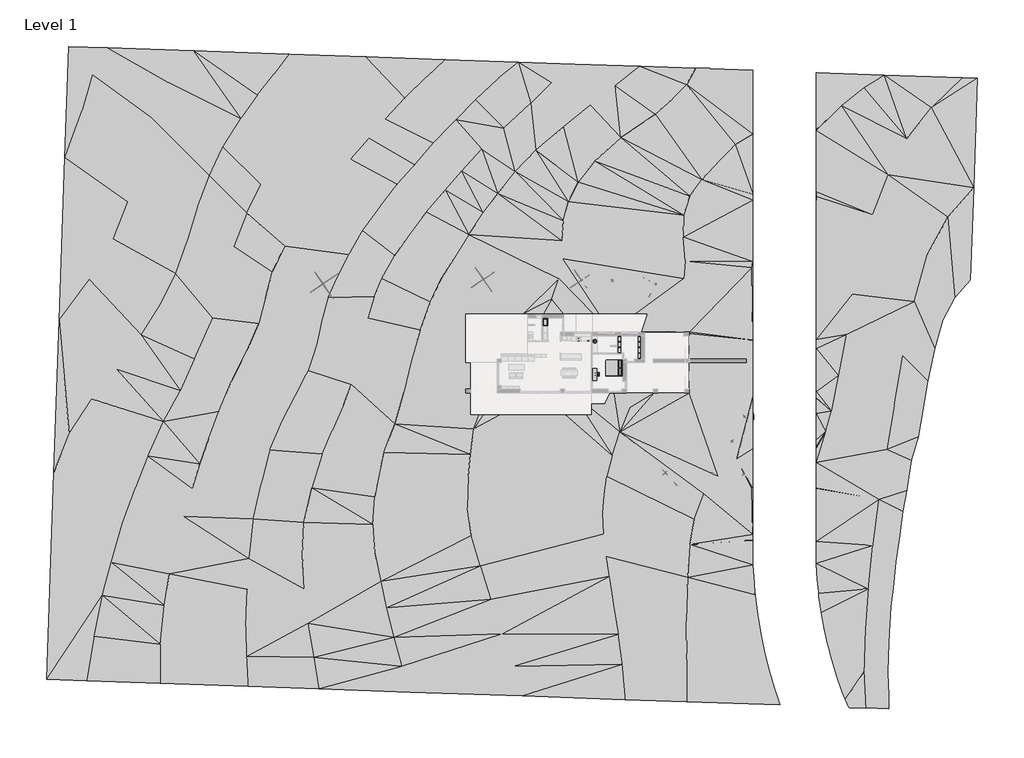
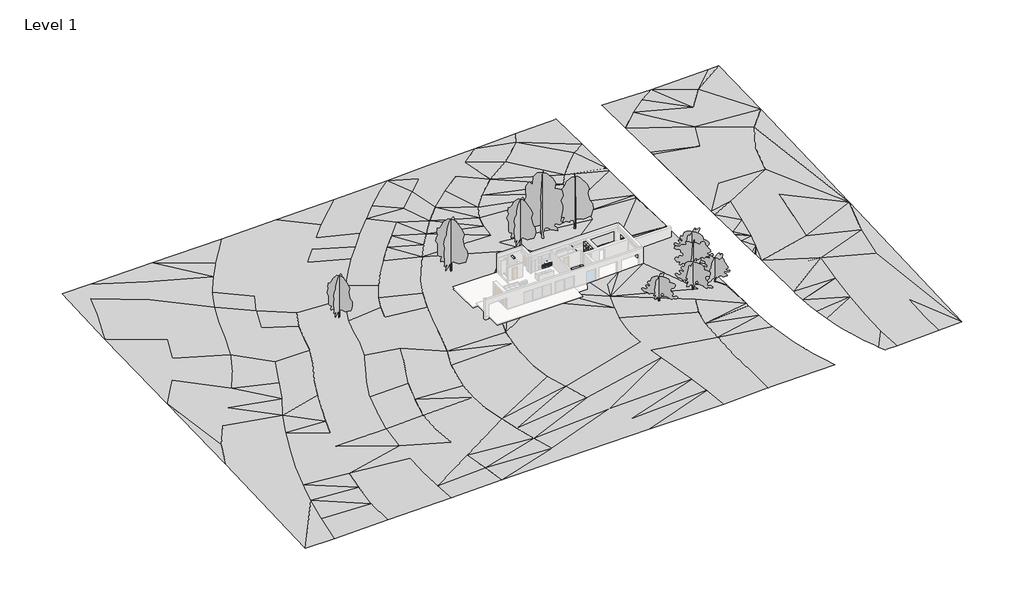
# One storey, part 3 of 3: 14 furniture elements, 10 geographic elements, 1 flow terminal, 1 proxy.
"""IFC4 building model written with IfcOpenShell, lengths in millimetres."""

from ifc_helpers import new_model, si_unit, origin, place, context, project, spatial, triangles, transform, mapped, element, save
from components import sink_vanity_round_482_x_482mm_621b7b9b, furniture_56f83323, furniture_1500_x_500mm_231fc5f9, furniture_700_x_300_x_2200mm_207dd1db, base_cabinet_4_drawers_600_mm_7743cde6, base_cabinet_4_drawers_600_mm_75a3c887, bed_box_2000_x_2100mm_5f007bae, tall_cabinet_double_door_900_mm_12ca9f50, rpc_tree_deciduous_hawthorn_5_meters_61e68b76, rpc_tree_deciduous_hawthorn_5_5_meters_b1aece7a, rpc_tree_deciduous_hawthorn_6_meters_b5c31be1, rpc_tree_deciduous_red_ash_10_meters_1bd7eb3f, rpc_tree_deciduous_red_ash_12_5_meters_f1622f8d, rpc_tree_deciduous_red_ash_8_meters_67bd5bca, rpc_tree_deciduous_red_ash_9_meters_4b385689

model = new_model("IFC4")

# Units and contexts
model_context = context("Model", 3, world=origin())
ifc_project = project(units=[si_unit("LENGTHUNIT", "METRE", prefix="MILLI")], contexts=[model_context])

# Site, building, storey
site = spatial("IfcSite", under=ifc_project)
building = spatial("IfcBuilding", under=site)
storey = spatial("IfcBuildingStorey", under=building, Name="Level 1", Elevation=0.0)

# Proxy
placement = place(None, origin())
element("IfcBuildingElementProxy", 1, Name="Building Element Proxy", at=placement, inside=storey, context=model_context, shape_type="Tessellation", body=[
    triangles([(62675.4813354, 39834.7592285, 500.0000038), (52813.8925781, 40179.1335571, 0.0), (44199.9997559, 40479.9384521, -99.9114706), (44199.9997559, 40477.7757935, -99.8740728), (44199.9997559, 40470.1669556, -99.7612435), (44199.9997559, 33283.15448, 0.0), (44199.9997559, 33281.3429626, 0.0637354), (44199.9997559, 33162.8501953, 1.412361), (44199.9997559, 25459.997113, 92.5713027), (44199.9997559, 24843.6114807, 100.0000008), (44199.9997559, 24154.9302612, 107.5494491), (44199.9997559, 15721.3415497, 200.0000015), (44199.9997559, 15598.8536774, 201.3711024), (44199.9997559, 6787.8083542, 300.0000023), (44199.9997559, 5639.6784348, 351.4946789), (44199.9997559, 167.286119, 427.0918814), (44199.9997559, -580.2686145, 401.8743436), (44199.9997559, -678.7061016, 402.7253454), (44199.9997559, -815.0331728, 404.2993046), (44199.9997559, -2579.7006775, 446.6362189), (44199.9997559, -5884.6937119, 500.0000038), (44199.9997559, -6738.3166077, 500.0000038), (44199.9997559, -6960.7408218, 504.2089039), (44199.9997559, -8790.5395981, 538.8338616), (44199.9997559, -11980.0361938, 603.3105947), (44199.9997559, -12033.5247894, 603.7311722), (44199.9997559, -18725.3419098, 700.0708586), (44199.9997559, -18726.726709, 700.0782709), (44199.9997559, -18728.290567, 700.0847385), (44199.9997559, -18763.760495, 700.5671946), (44199.9997559, -19440.043634, 710.8359718), (44241.6948853, -21521.9537659, 742.51071), (44366.7058594, -23600.5245667, 774.2601528), (44518.5849609, -25112.4601868, 797.4461649), (44535.3234741, -25279.0965271, 800.2659782), (44536.1420288, -25287.203009, 800.3105976), (44545.3414673, -25378.7997437, 801.2867008), (44574.8373413, -25672.4213562, 805.0710629), (44865.7544678, -27734.3280579, 831.7553352), (45238.9875, -29782.9309204, 858.3768934), (45693.9457764, -31814.9487488, 884.8932255), (45842.1925415, -32371.5403564, 892.187039), (45995.034375, -32945.3681213, 900.9259678), (46009.898584, -33001.1809937, 901.3053051), (46229.8898071, -33827.1236023, 912.3891489), (46845.9684814, -35816.227771, 940.7171436), (47541.1865112, -37779.070752, 970.3251474), (47895.8578857, -38665.8887146, 984.470941), (48311.874353, -39706.1019653, 980.0273169), (48314.4369873, -39712.5062256, 980.0480278), (50489.2112183, -39788.4504272, 1000.0000076), (57791.5515381, -40043.4534668, 1500.0000114), (61788.2378174, -40183.0216919, 1800.0000137), (63078.8567139, -3224.5165512, 1500.0000114), (64097.259668, 25938.7399841, 1000.0000076), (64580.1976318, 39768.2470093, 600.0000046), (29032.1976746, 41009.6084473, -500.0000038), (21941.3956055, 41257.2258911, -1000.0000076), (13657.7942505, 41546.4966064, -1500.0000114), (6632.065535, 41791.8397705, -2000.0000153), (-2690.8654037, 42117.4012939, -2500.0000191), (-12716.4098511, 42467.5008545, -3000.0000229), (-22333.341449, 42803.3315186, -3500.0000267), (-34451.2413208, 43226.5010376, -4000.0000305), (-45250.163562, 43603.608252, -4500.0000343), (-50149.8691406, 43774.709436, -4649.9998901), (-50640.5368652, 29723.8461548, -4500.0000343), (-51357.5442627, 9191.3639694, -4000.0000305), (-52030.1078613, -10068.240097, -3500.0000267), (-52941.8289551, -36176.5592651, -3170.0001114), (-47875.0963623, -36353.4926514, -3000.0000229), (-38571.968866, -36678.3658447, -2500.0000191), (-27447.2316284, -37066.8491089, -2000.0000153), (-18591.4814758, -37376.1, -1500.0000114), (-7024.2532242, -37780.0358093, -1000.0000076), (7111.8414825, -38273.677771, -500.0000038), (20142.6147034, -38728.7244141, 0.0), (27859.4460022, -38998.2009888, 500.0000038), (39617.2887817, -39408.7945313, 979.9999929), (39620.4560303, -39408.9061523, 979.9999929), (39615.242395, -39393.1954834, 979.7900494), (39592.0252075, -39323.2369629, 978.824556), (38908.0390503, -37262.2581116, 947.4351929), (38277.0333801, -35090.2860352, 918.016785), (37917.315802, -33651.7901184, 900.9052568), (37900.7447205, -33585.5243958, 900.0000069), (37897.1263367, -33571.053186, 899.8178959), (37891.2336731, -33547.4871826, 899.5252539), (37728.3389648, -32896.0757813, 889.617065), (37262.7301758, -30682.7434387, 859.1798967), (36880.8720886, -28453.4330017, 831.7234331), (36583.3088562, -26211.3186951, 807.286698), (36531.7631653, -25666.0217468, 802.1085983), (36515.5618286, -25494.6182556, 800.0000061), (36509.2459351, -25427.7897766, 799.0163452), (36491.581897, -25240.9337402, 796.3089523), (36370.4613831, -23959.5793945, 775.587252), (36242.6296509, -21701.4195557, 741.8023956), (36199.9996948, -19440.043634, 710.6949921), (36199.9996948, -18606.7293823, 699.7334518), (36199.9996948, -18601.1797211, 699.7258215), (36199.9996948, -18596.641626, 699.7049652), (36199.9996948, -18590.1536499, 699.6456665), (36199.9996948, -17865.8920441, 688.9390526), (36199.9996948, -11959.4700073, 600.0000046), (36199.9996948, -7036.0792465, 500.0000038), (36199.9996948, -556.9180049, 400.0000031), (36199.9996948, 6699.2172501, 300.0000023), (36199.9996948, 15865.8920288, 200.0000015), (36199.9996948, 16593.2615845, 192.1385083), (36199.9996948, 24352.2461243, 108.5469173), (36199.9996948, 25139.7096863, 99.9103623), (36199.9996948, 25142.1909302, 99.9101262), (36199.9996948, 25144.3814941, 99.9011514), (36199.9996948, 25146.8185547, 99.8778698), (36199.9996948, 25152.6530823, 99.8128483), (36199.9996948, 25166.5359558, 99.6477875), (36199.9996948, 32703.2852234, 0.0), (36199.9996948, 32724.904834, -0.9608008), (36199.9996948, 40755.7123169, -100.6891393), (36199.9996948, 40759.3027954, -100.7970179), (12360.0002106, 9960.0001923, -423.8153735), (12360.0002106, 7679.999826, -386.8554565), (15285.8030182, 7679.999826, -301.7458623), (18274.7275543, 7679.999826, -214.9600804), (25461.2551758, 7679.999826, 0.0), (26497.6430786, 7679.999826, 27.7077973), (28199.9996338, 7679.999826, 73.9349766), (28199.9996338, 7507.9138184, 75.4836602), (28199.9996338, 5272.7839691, 104.8813253), (28199.9996338, 4319.9999748, 118.0120554), (35399.9996887, 4319.9999748, 311.3113395), (35399.9996887, 3839.999913, 317.9264517), (28199.9996338, 3839.999913, 124.6271494), (28199.9996338, 2736.0071251, 139.841764), (28199.9996338, 481.2594326, 173.2234928), (28199.9996338, 0.0, 182.6416316), (23694.83974, 0.0, 66.3748957), (21515.1169739, 0.0, 0.0), (18634.7334869, 0.0, -87.7288294), (17198.1328033, 0.0, -125.1444416), (13397.1217896, 0.0, -237.486249), (9421.774324, 0.0, -329.9934114), (3959.9998558, 0.0, -470.4504993), (3959.9998558, 2007.964064, -500.0000038), (3959.9998558, 2568.0008102, -513.275756), (3959.9998558, 2687.0115692, -514.8089109), (3959.9998558, 2831.5664085, -516.9741494), (3959.9998558, 3839.999913, -543.101152), (2977.0078217, 3839.999913, -573.1602184), (1821.3190613, 3839.999913, -621.4587238), (0.0, 3839.999913, -699.6334579), (0.0, 4821.8949211, -712.2826132), (0.0, 6894.0576828, -743.3206169), (0.0, 9063.5816528, -799.5297586), (0.0, 9960.0001923, -814.352037), (1774.630632, 9960.0001923, -751.0566999), (5988.3961029, 9960.0001923, -622.0950222), (7160.4402603, 9960.0001923, -584.8428266), (9741.0100708, 9960.0001923, -500.0000038), (17785.0597687, -10539.9996735, 0.0), (17437.3914551, -12871.6573517, 0.0), (1020.5792747, -4531.0638359, -500.0000038), (518.5041069, -7734.6319565, -500.0000038), (269.882055, -10539.9996735, -500.0000038), (159.9114783, -14508.993457, -500.0000038), (10815.8165588, 11888.7138611, -500.0000038), (11691.8677368, 14459.9999359, -500.0000038), (12137.434726, 16959.4729523, -500.0000038), (655.4314322, -17979.9257812, -500.0000038), (-10346.5091583, -7499.8718674, -1000.0000076), (-11019.1739136, -10539.9996735, -1000.0000076), (-11497.3703064, -13133.3913757, -1000.0000076), (-11757.5323334, -16613.3196625, -1000.0000076), (-11482.3456421, -20106.2308777, -1000.0000076), (-3118.8869522, 14459.9999359, -1000.0000076), (-1502.4372173, 17074.1857178, -1000.0000076), (27492.182373, 14459.9999359, 0.0), (27666.9228699, 16682.0247711, 0.0), (34184.4878357, -8324.7819809, 500.0000038), (31872.168512, -10539.9996735, 500.0000038), (30046.977594, -12763.5383698, 500.0000038), (-8954.5493546, 17345.9063416, -1500.0000114), (-11578.9874176, 12182.533136, -1500.0000114), (-13183.5883118, 6460.6073959, -1500.0000114), (12087.2947632, 19234.2759613, -500.0000038), (-10616.9240479, 14459.9999359, -1500.0000114), (-16332.8019012, 14459.9999359, -2000.0000153), (-18196.6997589, 9135.8714264, -2000.0000153), (-19897.1575928, 2861.2186684, -2000.0000153), (-23189.1380493, -3524.1581451, -2000.0000153), (-24769.0416138, -7218.9215744, -2000.0000153), (-25864.4026611, -11505.3895844, -2000.0000153), (-26865.7415405, -15916.5017303, -2000.0000153), (-20467.3902283, -16330.3799561, -1500.0000114), (-19467.1082611, -11972.8180298, -1500.0000114), (-18138.8870087, -7688.4045456, -1500.0000114), (-15501.0294159, -1549.4827469, -1500.0000114), (-13779.6728577, 3681.9333984, -1500.0000114), (-12421.0069519, 9460.4144073, -1500.0000114), (-22866.0182373, 18570.6315857, -2500.0000191), (-24428.3949646, 15268.9656738, -2500.0000191), (-26157.3452454, 8807.4653091, -2500.0000191), (-27607.0474548, 5450.8405426, -2500.0000191), (-31175.1319885, -2313.5807293, -2500.0000191), (-32441.6337524, -5760.616983, -2500.0000191), (-33596.7330139, -8984.5201996, -2500.0000191), (-34532.6851868, -12038.5221588, -2500.0000191), (-35635.348114, -15592.0994385, -2500.0000191), (-20960.820575, 21543.5291931, -2500.0000191), (-19070.9475586, 24142.4705566, -2500.0000191), (-16802.0151215, 26729.9451782, -2500.0000191), (-14788.6938263, 17511.7241272, -2000.0000153), (-13095.9297089, 20523.1635681, -2000.0000153), (-10897.5615692, 23500.2097595, -2000.0000153), (-8647.2402054, 26403.1488464, -2000.0000153), (-6975.3120255, 20279.1435791, -1500.0000114), (-4994.2248093, 22853.0167053, -1500.0000114), (-2614.1087517, 25655.3270508, -1500.0000114), (361.8462636, 20042.7626587, -1000.0000076), (2201.2583702, 22782.5907715, -1000.0000076), (4025.0816391, 25202.8011841, -1000.0000076), (6258.6296082, 27941.9711975, -1000.0000076), (12318.7748199, 21808.2130371, -500.0000038), (12903.4391327, 24186.8608704, -500.0000038), (16274.1833862, 29288.0122925, -500.0000038), (27455.9171448, 19670.448175, 0.0), (28270.9464661, 24906.2797485, 0.0), (32015.9667114, 29437.5752563, 0.0), (-25870.6953003, 26309.0429626, -3000.0000229), (-27656.3095642, 22737.8144348, -3000.0000229), (-29306.3460571, 18472.584082, -3000.0000229), (-30599.2462097, 13692.0212311, -3000.0000229), (-31952.9286987, 9466.1942871, -3000.0000229), (-34271.8894775, 4278.4179199, -3000.0000229), (-32380.5584106, 27476.360083, -3500.0000267), (-33900.1191467, 23473.5625488, -3500.0000267), (-35196.7097717, 19206.453241, -3500.0000267), (-38595.8976379, 11205.8508911, -3500.0000267), (-41440.5449341, 29594.444751, -4000.0000305), (-30705.2002075, 31085.8002319, -3500.0000267), (-23672.9759583, 29571.7507874, -3000.0000229), (-36036.2027161, 329.8430935, -3000.0000229), (-36500.1836975, -19119.0876434, -2500.0000191), (-29576.7830383, 1556.081472, -2500.0000191), (-25350.2038147, 11954.3168335, -2500.0000191), (-14566.5132019, 29578.5852539, -2500.0000191), (-21555.6098511, -388.1904768, -2000.0000153), (-27410.2687683, -20897.2756165, -2000.0000153), (-20671.5405579, -20486.1983826, -1500.0000114), (-14476.0989532, 1084.1536646, -1500.0000114), (-16860.3557465, -4734.5223473, -1500.0000114), (-521.909931, 28019.824585, -1500.0000114), (-6463.5287292, 28827.9566528, -2000.0000153), (14176.1858643, 26665.7956055, -500.0000038), (1795.4909866, -21816.7241455, -500.0000038), (17261.4998657, -15127.9126556, 0.0), (17663.1962769, -20610.3977783, 0.0), (18068.4250305, -23150.8078308, 0.0), (17389.6315796, -17770.4083374, 0.0), (28246.7107361, -19100.8410828, 500.0000038), (28017.940979, -23279.041864, 500.0000038), (28808.7787537, -15989.1379944, 500.0000038), (-17393.6545898, 12080.7753937, -2000.0000153), (-18805.5974762, 6207.9710724, -2000.0000153), (2368.3175045, -773.4899237, -500.0000038), (44247.1782715, -6739.9636002, 500.0000038), (44216.2592285, 6787.2403656, 300.0000023), (44213.668689, 15720.8636719, 200.0000015), (44280.4925171, 24840.8000244, 100.0000008), (45405.5308228, -4846.0821075, 500.0000038), (46133.030603, -2276.4914234, 500.0000038), (47035.2499512, 2229.5832401, 500.0000038), (36112.1980774, -11959.089798, 600.0000046), (36116.053656, 15873.7834076, 200.0000015), (26720.9154968, 11432.5254272, 0.0), (19446.9873962, -4904.8953781, 0.0), (20699.6690735, -1810.0515804, 0.0), (18499.5859222, -7915.4982422, 0.0), (25510.3545044, 7779.8018738, 0.0), (-4490.6825798, 11500.9665985, -1000.0000076), (-5769.6844528, 7932.4006989, -1000.0000076), (-7859.2063293, 74.3139641, -1000.0000076), (-9011.8882965, -3894.2512527, -1000.0000076), (-6927.6056351, 4074.3969429, -1000.0000076), (-10028.7018127, -27163.437323, -1000.0000076), (-9105.1994614, -30846.8101685, -1000.0000076), (-10781.3861023, -23778.0555908, -1000.0000076), (-8099.0672699, -34512.821283, -1000.0000076), (8826.8693573, 30656.270636, -1000.0000076), (12337.2295074, 33655.4015259, -1000.0000076), (15699.4405609, 36343.2537415, -1000.0000076), (18859.1221161, 38796.1598328, -1000.0000076), (3109.4622368, -26048.5007263, -500.0000038), (4583.7254471, -30410.8367798, -500.0000038), (5956.0300552, -34527.5947998, -500.0000038), (19527.9475708, 32270.4674561, -500.0000038), (23908.9522522, 35235.1353333, -500.0000038), (26075.9478882, 37149.0882751, -500.0000038), (27907.8895569, 38964.2053894, -500.0000038), (-20384.6092346, -24769.1532349, -1500.0000114), (-19959.4654175, -29109.2697144, -1500.0000114), (-19219.3373383, -33364.270459, -1500.0000114), (2020.3673767, 30782.7024536, -1500.0000114), (4766.3506371, 33450.1768433, -1500.0000114), (8173.0889145, 36647.2537903, -1500.0000114), (10804.8172302, 39208.1835205, -1500.0000114), (-4107.6114853, 31581.3537048, -2000.0000153), (-1261.2480148, 34516.5350098, -2000.0000153), (1208.2063396, 37064.6352905, -2000.0000153), (4064.231575, 39763.5310181, -2000.0000153), (-27633.5156067, -24771.0019592, -2000.0000153), (-27781.8925964, -29019.9519104, -2000.0000153), (-27646.7171265, -33283.5358521, -2000.0000153), (-12204.7329437, 32216.9567688, -2500.0000191), (-10167.2712616, 34569.6294434, -2500.0000191), (-7717.243483, 37275.1782532, -2500.0000191), (-4949.7379898, 39936.6785889, -2500.0000191), (-37482.3586304, -22863.6951233, -2500.0000191), (-38055.6282898, -26807.2567383, -2500.0000191), (-38594.4558655, -31719.6661926, -2500.0000191), (-21449.9186279, 32503.4648621, -3000.0000229), (-19081.6317902, 35291.045874, -3000.0000229), (-16786.5602509, 38063.2696838, -3000.0000229), (-14596.5171844, 40422.0303589, -3000.0000229), (-38200.0752869, -3613.1547478, -3000.0000229), (-40141.5823608, -7934.4656891, -3000.0000229), (-41717.769873, -11958.8816711, -3000.0000229), (-43404.387854, -16551.3990234, -3000.0000229), (-44790.4009277, -21373.4744568, -3000.0000229), (-45881.0552856, -25549.7079163, -3000.0000229), (-46933.3957031, -30709.9743347, -3000.0000229), (-28417.2328857, 34688.1780212, -3500.0000267), (-26334.2344482, 37631.0774597, -3500.0000267), (-24204.1086548, 40355.3228027, -3500.0000267), (-36640.9704529, 15097.3121979, -3500.0000267), (-41001.8089233, 7310.767131, -3500.0000267), (-44149.0028687, 3059.9678741, -3500.0000267), (-47258.7990967, -779.7315485, -3500.0000267), (-50065.0836182, -5132.0018646, -3500.0000267), (-47531.4103638, 14353.0041412, -4000.0000305), (-44521.8219727, 19438.3611786, -4000.0000305), (-42694.2544556, 24127.534259, -4000.0000305), (-39700.2093018, 34798.3364136, -4000.0000305), (-37494.0416382, 39199.7282227, -4000.0000305), (-47157.1913452, 40199.225354, -4500.0000343), (-48452.8145874, 35728.7889221, -4500.0000343), (18631.0767334, -26639.6832458, 0.0), (19241.3476227, -30505.6798279, 0.0), (19747.1527954, -34271.9127319, 0.0), (33980.4398254, 31367.4086243, 0.0), (36502.3393799, -25495.4275085, 800.0000061), (37897.8588501, -33585.8987915, 900.0000069), (27795.621991, -28795.5051453, 500.0000038), (27867.5013245, -33694.7781921, 500.0000038), (48005.1395874, 7402.9923157, 500.0000038), (49818.2428711, 17722.8740295, 500.0000038), (48751.1359131, 12488.8132782, 500.0000038), (51292.6970581, 22563.8459839, 500.0000038), (55626.8743652, 32158.5556824, 500.0000038), (58768.8918823, 36043.2394958, 500.0000038), (53245.1918335, 27565.1686157, 500.0000038), (50262.2855347, -35164.0885071, 1000.0000076), (50421.6944092, -30034.5434692, 1000.0000076), (51347.6518433, -19242.60336, 1000.0000076), (50798.9039429, -24737.6109741, 1000.0000076), (52091.7366577, -13433.0486664, 1000.0000076), (54067.1556152, -1581.0279144, 1000.0000076), (55130.4814087, 4657.9639389, 1000.0000076), (53103.7539551, -7149.7856781, 1000.0000076), (56609.4143921, 11566.1905243, 1000.0000076), (58229.7666504, 17469.3209015, 1000.0000076), (60826.1151489, 22217.5275879, 1000.0000076), (57727.3973145, -35608.5683533, 1500.0000114), (57915.4323486, -30457.531604, 1500.0000114), (58615.3198608, -24434.56203, 1500.0000114), (59755.3293457, -17269.5970459, 1500.0000114), (60923.0394653, -10627.3920135, 1500.0000114), (47389.1957886, 36276.5485107, 0.0), (50253.3372437, 38551.6677795, 0.0), (27478.9575989, 22445.5276245, 0.0), (29784.2796753, 26945.6506165, 0.0)], [[70, 71, 332], [332, 72, 321], [72, 332, 71], [320, 321, 313], [332, 321, 331], [70, 332, 331], [330, 244, 329], [320, 330, 331], [69, 331, 330], [70, 331, 69], [319, 249, 244], [320, 312, 319], [319, 244, 330], [320, 319, 330], [331, 321, 320], [329, 244, 209], [314, 321, 72], [69, 330, 329], [301, 312, 313], [312, 320, 313], [302, 313, 314], [249, 319, 312], [303, 302, 314], [303, 73, 74], [175, 250, 301], [303, 314, 73], [321, 314, 313], [301, 313, 302], [209, 249, 194], [209, 244, 249], [194, 249, 250], [209, 194, 208], [196, 195, 174], [301, 250, 249], [195, 250, 174], [250, 195, 194], [249, 312, 301], [194, 195, 193], [302, 288, 301], [314, 72, 73], [329, 209, 328], [69, 328, 340], [328, 69, 329], [340, 328, 327], [69, 340, 68], [327, 208, 207], [208, 327, 328], [207, 208, 193], [340, 327, 339], [328, 209, 208], [326, 327, 207], [68, 339, 338], [338, 339, 326], [337, 338, 243], [68, 338, 337], [243, 235, 337], [205, 243, 326], [245, 235, 243], [243, 338, 326], [339, 327, 326], [239, 337, 235], [206, 326, 207], [340, 339, 68], [205, 206, 192], [193, 206, 207], [192, 206, 193], [206, 205, 326], [191, 192, 197], [196, 192, 193], [248, 191, 252], [192, 191, 205], [208, 194, 193], [205, 191, 245], [235, 204, 234], [204, 245, 248], [203, 204, 190], [204, 235, 245], [190, 265, 203], [198, 190, 248], [199, 265, 190], [190, 204, 248], [245, 191, 248], [189, 203, 265], [197, 192, 196], [205, 245, 243], [195, 196, 193], [203, 234, 204], [287, 302, 303], [175, 174, 250], [301, 288, 175], [166, 173, 174], [174, 173, 196], [175, 288, 170], [288, 302, 286], [286, 302, 287], [175, 170, 174], [289, 287, 303], [286, 256, 288], [252, 197, 171], [196, 173, 172], [197, 196, 172], [198, 248, 252], [171, 164, 284], [166, 172, 173], [252, 171, 198], [172, 171, 197], [171, 172, 165], [198, 171, 284], [286, 287, 294], [303, 74, 289], [287, 295, 294], [75, 289, 74], [295, 289, 75], [294, 256, 286], [75, 296, 295], [296, 75, 76], [295, 259, 294], [294, 258, 256], [256, 260, 170], [143, 164, 161], [161, 164, 165], [164, 171, 165], [165, 172, 166], [164, 143, 163], [170, 288, 256], [170, 257, 166], [162, 165, 166], [174, 170, 166], [163, 284, 164], [349, 295, 296], [295, 287, 289], [284, 163, 283], [251, 199, 190], [198, 284, 251], [199, 251, 283], [199, 185, 265], [152, 266, 151], [266, 152, 283], [199, 283, 285], [283, 251, 284], [285, 283, 152], [185, 285, 282], [285, 185, 199], [282, 285, 153], [189, 265, 185], [154, 155, 282], [153, 154, 282], [285, 152, 153], [200, 185, 282], [198, 251, 190], [151, 145, 146], [266, 163, 144], [145, 266, 144], [151, 146, 150], [144, 163, 143], [143, 279, 142], [150, 148, 149], [148, 150, 147], [150, 146, 147], [145, 151, 266], [163, 266, 283], [122, 123, 124], [350, 296, 76], [252, 191, 197], [281, 282, 155], [337, 341, 68], [337, 239, 341], [342, 341, 239], [67, 68, 341], [336, 234, 233], [234, 336, 239], [202, 232, 233], [336, 233, 238], [234, 239, 235], [342, 239, 336], [342, 238, 343], [342, 336, 238], [343, 238, 237], [341, 342, 67], [237, 232, 231], [232, 237, 238], [201, 231, 232], [236, 237, 231], [233, 232, 238], [240, 343, 237], [234, 203, 233], [343, 67, 342], [202, 246, 264], [233, 203, 246], [264, 246, 189], [201, 232, 202], [188, 264, 184], [200, 264, 189], [213, 188, 187], [264, 188, 202], [185, 200, 189], [202, 188, 201], [231, 210, 230], [231, 201, 210], [210, 201, 213], [230, 210, 211], [211, 213, 214], [213, 211, 210], [183, 214, 213], [211, 214, 212], [201, 188, 213], [230, 211, 242], [215, 212, 214], [202, 233, 246], [189, 246, 203], [230, 236, 231], [347, 67, 240], [67, 343, 240], [344, 240, 236], [347, 240, 344], [241, 242, 333], [241, 236, 230], [344, 241, 345], [236, 241, 344], [237, 236, 240], [345, 241, 333], [66, 347, 346], [347, 66, 67], [347, 344, 346], [66, 346, 65], [65, 345, 64], [345, 65, 346], [64, 345, 333], [344, 345, 346], [333, 334, 64], [322, 247, 323], [212, 322, 242], [322, 323, 334], [322, 334, 333], [212, 215, 247], [315, 247, 216], [247, 315, 323], [212, 247, 322], [230, 242, 241], [323, 315, 324], [335, 63, 64], [334, 323, 335], [63, 335, 324], [335, 64, 334], [325, 62, 63], [316, 325, 324], [317, 62, 325], [325, 63, 324], [323, 324, 335], [316, 324, 315], [322, 333, 242], [211, 212, 242], [264, 200, 184], [184, 281, 187], [200, 282, 184], [183, 187, 281], [183, 213, 187], [177, 176, 156], [156, 176, 281], [281, 155, 156], [177, 156, 157], [281, 184, 282], [183, 281, 176], [214, 217, 215], [214, 183, 217], [183, 176, 217], [215, 217, 218], [218, 177, 220], [177, 218, 217], [158, 220, 177], [219, 218, 220], [176, 177, 217], [216, 215, 218], [177, 157, 158], [187, 188, 184], [168, 158, 159], [167, 159, 160], [167, 122, 168], [122, 167, 160], [168, 122, 125], [167, 168, 159], [169, 220, 168], [221, 186, 222], [221, 220, 186], [222, 186, 224], [219, 220, 221], [381, 255, 225], [224, 186, 227], [222, 224, 223], [381, 225, 224], [169, 186, 220], [223, 224, 225], [168, 125, 169], [168, 220, 158], [222, 253, 221], [315, 254, 316], [254, 216, 219], [308, 254, 253], [316, 254, 308], [222, 304, 253], [253, 219, 221], [253, 304, 308], [219, 253, 254], [216, 218, 219], [308, 304, 309], [317, 309, 318], [317, 316, 308], [318, 61, 62], [316, 317, 325], [318, 310, 61], [310, 318, 309], [305, 310, 309], [61, 310, 311], [308, 309, 317], [318, 62, 317], [309, 304, 305], [315, 216, 254], [305, 223, 290], [223, 305, 304], [223, 225, 290], [306, 305, 290], [291, 255, 226], [255, 291, 290], [381, 226, 255], [291, 226, 292], [223, 304, 222], [306, 290, 291], [311, 306, 60], [306, 311, 305], [60, 306, 307], [311, 60, 61], [307, 292, 59], [307, 306, 291], [59, 292, 293], [307, 59, 60], [291, 292, 307], [226, 297, 292], [305, 311, 310], [255, 290, 225], [186, 169, 227], [216, 247, 215], [124, 125, 122], [349, 350, 355], [349, 296, 350], [77, 78, 355], [355, 90, 354], [77, 355, 350], [348, 295, 349], [349, 355, 354], [262, 348, 354], [354, 348, 349], [352, 262, 354], [96, 262, 352], [352, 94, 95], [92, 352, 354], [352, 95, 96], [352, 93, 94], [355, 78, 84], [348, 259, 295], [87, 353, 86], [353, 87, 88], [86, 353, 85], [85, 353, 355], [83, 84, 78], [355, 84, 85], [92, 93, 352], [91, 92, 354], [89, 90, 355], [88, 89, 353], [91, 354, 90], [353, 89, 355], [78, 82, 83], [261, 260, 258], [258, 260, 256], [258, 294, 259], [262, 258, 259], [182, 263, 104], [261, 104, 263], [261, 263, 260], [262, 261, 258], [348, 262, 259], [260, 263, 257], [263, 161, 162], [162, 257, 263], [279, 143, 161], [161, 165, 162], [277, 279, 182], [182, 279, 161], [274, 181, 182], [181, 277, 182], [182, 161, 263], [277, 142, 279], [261, 262, 98], [260, 257, 170], [103, 261, 102], [102, 261, 101], [100, 261, 99], [99, 261, 98], [261, 100, 101], [106, 180, 105], [180, 181, 274], [105, 180, 274], [137, 181, 180], [104, 105, 274], [274, 182, 104], [103, 104, 261], [98, 262, 97], [96, 97, 262], [107, 180, 106], [350, 76, 77], [82, 79, 81], [79, 82, 78], [81, 79, 80], [364, 43, 44], [38, 39, 366], [40, 364, 39], [42, 364, 41], [40, 41, 364], [42, 43, 364], [44, 45, 363], [49, 50, 51], [48, 49, 51], [374, 51, 52], [51, 363, 48], [374, 52, 53], [46, 47, 363], [47, 48, 363], [363, 364, 44], [363, 375, 364], [375, 363, 374], [375, 374, 53], [366, 39, 364], [51, 374, 363], [363, 45, 46], [53, 376, 375], [366, 364, 375], [365, 28, 29], [365, 27, 28], [365, 30, 31], [29, 30, 365], [26, 27, 367], [267, 22, 23], [23, 271, 267], [367, 24, 25], [26, 367, 25], [271, 23, 24], [22, 267, 21], [32, 365, 31], [35, 36, 366], [34, 35, 366], [38, 366, 37], [366, 375, 376], [366, 376, 365], [37, 366, 36], [34, 366, 33], [365, 367, 27], [366, 365, 32], [367, 365, 377], [367, 370, 24], [367, 378, 370], [378, 367, 377], [377, 376, 53], [370, 378, 54], [376, 377, 365], [33, 366, 32], [53, 378, 377], [370, 271, 24], [53, 54, 378], [141, 277, 140], [141, 142, 277], [140, 277, 278], [278, 138, 139], [138, 278, 277], [278, 139, 140], [277, 137, 138], [125, 126, 280], [280, 126, 127], [125, 280, 276], [178, 276, 275], [128, 276, 127], [276, 178, 125], [127, 276, 280], [178, 179, 169], [178, 169, 125], [133, 135, 136], [107, 136, 137], [135, 133, 134], [133, 136, 107], [133, 107, 108], [277, 181, 137], [130, 132, 129], [132, 130, 131], [129, 108, 128], [108, 129, 132], [132, 133, 108], [275, 276, 128], [107, 137, 180], [275, 128, 108], [381, 228, 226], [227, 381, 224], [111, 228, 381], [226, 228, 297], [111, 382, 228], [110, 227, 179], [228, 382, 297], [227, 111, 381], [179, 227, 169], [297, 382, 298], [293, 298, 58], [298, 293, 297], [58, 298, 299], [293, 58, 59], [300, 57, 58], [351, 300, 299], [300, 120, 57], [300, 58, 299], [299, 298, 229], [382, 229, 298], [293, 292, 297], [275, 109, 110], [109, 275, 108], [110, 111, 227], [112, 113, 382], [112, 382, 111], [113, 114, 382], [351, 229, 117], [382, 114, 115], [382, 115, 116], [229, 351, 299], [117, 229, 382], [382, 116, 117], [351, 117, 118], [110, 179, 275], [179, 178, 275], [119, 300, 351], [16, 273, 15], [16, 17, 272], [18, 19, 272], [17, 18, 272], [20, 272, 19], [14, 268, 13], [268, 14, 15], [13, 269, 12], [358, 269, 13], [358, 13, 268], [11, 12, 269], [268, 15, 356], [20, 21, 271], [272, 273, 16], [271, 370, 272], [273, 272, 368], [356, 15, 273], [368, 54, 369], [271, 21, 267], [369, 54, 371], [368, 369, 273], [272, 370, 368], [273, 369, 356], [358, 371, 357], [371, 358, 356], [358, 357, 269], [358, 268, 356], [54, 372, 371], [372, 54, 373], [357, 372, 359], [371, 372, 357], [356, 369, 371], [11, 269, 357], [54, 55, 373], [20, 271, 272], [370, 54, 368], [373, 359, 372], [120, 300, 119], [10, 270, 9], [8, 9, 362], [270, 10, 11], [121, 57, 120], [5, 6, 379], [4, 5, 380], [7, 379, 6], [8, 379, 7], [119, 351, 118], [359, 362, 9], [359, 270, 11], [359, 373, 362], [8, 362, 379], [360, 55, 361], [55, 360, 362], [361, 55, 56], [379, 362, 360], [373, 55, 362], [2, 360, 361], [4, 380, 3], [5, 379, 380], [379, 360, 380], [3, 380, 2], [360, 2, 380], [1, 2, 361], [361, 56, 1], [270, 359, 9], [11, 357, 359], [162, 166, 257]], closed=False),
])

# Flow terminal
sink_vanity_round_482_x_482mm_shape = sink_vanity_round_482_x_482mm_621b7b9b(model_context)
element("IfcFlowTerminal", 2, ObjectType="Sink Vanity - Round : 482 x 482mm", at=placement, inside=storey, context=model_context, shape_type="MappedRepresentation", body=[
    mapped(sink_vanity_round_482_x_482mm_shape, transform((16358.3901141, 6444.5531607, 0.0), x_axis=(0.0, 1.0, 0.0), y_axis=(-1.0, 0.0, 0.0), z_axis=(0.0, 0.0, 1.0))),
])

# Furniture
furniture_shape = furniture_56f83323(model_context)
element("IfcFurniture", 3, ObjectType="Chair - Allround : Chair - allround", at=placement, inside=storey, context=model_context, shape_type="MappedRepresentation", body=[
    mapped(furniture_shape, transform((16525.0, 2370.0, 0.0), x_axis=(0.0, -1.0000000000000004, 0.0), y_axis=(1.0000000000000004, 0.0, 0.0), z_axis=(0.0, 0.0, 1.0))),
])
furniture_1500_x_500mm_shape = furniture_1500_x_500mm_231fc5f9(model_context)
element("IfcFurniture", 4, ObjectType="Table - Allround : 1500 x 500mm", at=placement, inside=storey, context=model_context, shape_type="MappedRepresentation", body=[
    mapped(furniture_1500_x_500mm_shape, transform((16275.0, 2320.0, 0.0), x_axis=(0.0, 1.0000000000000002, 0.0), y_axis=(-1.0000000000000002, 0.0, 0.0), z_axis=(0.0, 0.0, 1.0))),
])
furniture_700_x_300_x_2200mm_shape = furniture_700_x_300_x_2200mm_207dd1db(model_context)
element("IfcFurniture", 5, ObjectType="Shelving (Floor) - Allround : 700 x 300 x 2200mm", at=placement, inside=storey, context=model_context, shape_type="MappedRepresentation", body=[
    mapped(furniture_700_x_300_x_2200mm_shape, transform((19085.2, 6810.0, 0.0), x_axis=(0.0, 1.0000000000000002, 0.0), y_axis=(-1.0000000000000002, 0.0, 0.0), z_axis=(0.0, 0.0, 1.0))),
])
element("IfcFurniture", 6, ObjectType="Shelving (Floor) - Allround : 700 x 300 x 2200mm", at=placement, inside=storey, context=model_context, shape_type="MappedRepresentation", body=[
    mapped(furniture_700_x_300_x_2200mm_shape, transform((19085.2, 6110.0, 0.0), x_axis=(0.0, 1.0000000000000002, 0.0), y_axis=(-1.0000000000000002, 0.0, 0.0), z_axis=(0.0, 0.0, 1.0))),
])
element("IfcFurniture", 7, ObjectType="Shelving (Floor) - Allround : 700 x 300 x 2200mm", at=placement, inside=storey, context=model_context, shape_type="MappedRepresentation", body=[
    mapped(furniture_700_x_300_x_2200mm_shape, transform((19085.2, 5410.0, 0.0), x_axis=(0.0, 1.0000000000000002, 0.0), y_axis=(-1.0000000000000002, 0.0, 0.0), z_axis=(0.0, 0.0, 1.0))),
])
element("IfcFurniture", 8, ObjectType="Shelving (Floor) - Allround : 700 x 300 x 2200mm", at=placement, inside=storey, context=model_context, shape_type="MappedRepresentation", body=[
    mapped(furniture_700_x_300_x_2200mm_shape, transform((21585.2, 6810.0, 0.0), x_axis=(0.0, 1.0000000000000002, 0.0), y_axis=(-1.0000000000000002, 0.0, 0.0), z_axis=(0.0, 0.0, 1.0))),
])
element("IfcFurniture", 9, ObjectType="Shelving (Floor) - Allround : 700 x 300 x 2200mm", at=placement, inside=storey, context=model_context, shape_type="MappedRepresentation", body=[
    mapped(furniture_700_x_300_x_2200mm_shape, transform((21585.2, 6110.0, 0.0), x_axis=(0.0, 1.0000000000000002, 0.0), y_axis=(-1.0000000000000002, 0.0, 0.0), z_axis=(0.0, 0.0, 1.0))),
])
element("IfcFurniture", 10, ObjectType="Shelving (Floor) - Allround : 700 x 300 x 2200mm", at=placement, inside=storey, context=model_context, shape_type="MappedRepresentation", body=[
    mapped(furniture_700_x_300_x_2200mm_shape, transform((21585.2, 5410.0, 0.0), x_axis=(0.0, 1.0000000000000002, 0.0), y_axis=(-1.0000000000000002, 0.0, 0.0), z_axis=(0.0, 0.0, 1.0))),
])
element("IfcFurniture", 11, ObjectType="Shelving (Floor) - Allround : 700 x 300 x 2200mm", at=placement, inside=storey, context=model_context, shape_type="MappedRepresentation", body=[
    mapped(furniture_700_x_300_x_2200mm_shape, transform((21585.2, 4710.0, 0.0), x_axis=(0.0, 1.0000000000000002, 0.0), y_axis=(-1.0000000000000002, 0.0, 0.0), z_axis=(0.0, 0.0, 1.0))),
])
base_cabinet_4_drawers_600_mm_shape = base_cabinet_4_drawers_600_mm_7743cde6(model_context)
element("IfcFurniture", 12, ObjectType="Base Cabinet - 4 Drawers : 600 mm", at=placement, inside=storey, context=model_context, shape_type="MappedRepresentation", body=[
    mapped(base_cabinet_4_drawers_600_mm_shape, transform((14775.2996736, 7200.0, 0.0), x_axis=(1.0, 0.0, 0.0), y_axis=(0.0, 1.0, 0.0), z_axis=(0.0, 0.0, 1.0))),
])
element("IfcFurniture", 13, ObjectType="Base Cabinet - 4 Drawers : 600 mm", at=placement, inside=storey, context=model_context, shape_type="MappedRepresentation", body=[
    mapped(base_cabinet_4_drawers_600_mm_shape, transform((15375.2996736, 7200.0, 0.0), x_axis=(1.0, 0.0, 0.0), y_axis=(0.0, 1.0, 0.0), z_axis=(0.0, 0.0, 1.0))),
])
base_cabinet_4_drawers_600_mm_2_shape = base_cabinet_4_drawers_600_mm_75a3c887(model_context)
element("IfcFurniture", 14, ObjectType="Base Cabinet - 4 Drawers : 600 mm", at=placement, inside=storey, context=model_context, shape_type="MappedRepresentation", body=[
    mapped(base_cabinet_4_drawers_600_mm_2_shape, transform((14175.2996736, 7200.0, 0.0), x_axis=(1.0, 0.0, 0.0), y_axis=(0.0, 1.0, 0.0), z_axis=(0.0, 0.0, 1.0))),
])
bed_box_2000_x_2100mm_shape = bed_box_2000_x_2100mm_5f007bae(model_context)
element("IfcFurniture", 15, ObjectType="Bed - Box : 2000 x 2100mm", at=placement, inside=storey, context=model_context, shape_type="MappedRepresentation", body=[
    mapped(bed_box_2000_x_2100mm_shape, transform((18944.4295082, 3509.152459, 0.0), x_axis=(0.0, -1.0, 0.0), y_axis=(1.0, 0.0, 0.0), z_axis=(0.0, 0.0, 1.0))),
])
tall_cabinet_double_door_900_mm_shape = tall_cabinet_double_door_900_mm_12ca9f50(model_context)
element("IfcFurniture", 16, ObjectType="Tall Cabinet - Double door : 900 mm", at=placement, inside=storey, context=model_context, shape_type="MappedRepresentation", body=[
    mapped(tall_cabinet_double_door_900_mm_shape, transform((9720.0, 8895.2996736, 0.0), x_axis=(0.0, 1.0000000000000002, 0.0), y_axis=(-1.0000000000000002, 0.0, 0.0), z_axis=(0.0, 0.0, 1.0))),
])

# Geographic elements
rpc_tree_deciduous_hawthorn_5_meters_shape = rpc_tree_deciduous_hawthorn_5_meters_61e68b76(model_context)
element("IfcGeographicElement", 17, ObjectType="RPC Tree - Deciduous : Hawthorn - 5 Meters", at=placement, inside=storey, context=model_context, shape_type="MappedRepresentation", body=[
    mapped(rpc_tree_deciduous_hawthorn_5_meters_shape, transform((25174.4098385, -10054.2238403, 65.3232456), x_axis=(0.7380247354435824, 0.6747736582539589, 0.0), y_axis=(-0.6747736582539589, 0.7380247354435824, 0.0), z_axis=(0.0, 0.0, 1.0))),
])
element("IfcGeographicElement", 18, ObjectType="RPC Tree - Deciduous : Hawthorn - 5 Meters", at=placement, inside=storey, context=model_context, shape_type="MappedRepresentation", body=[
    mapped(rpc_tree_deciduous_hawthorn_5_meters_shape, transform((35072.9478337, -10251.5701261, 356.1335034), x_axis=(-0.5654936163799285, 0.8247526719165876, 0.0), y_axis=(-0.8247526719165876, -0.5654936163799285, 0.0), z_axis=(0.0, 0.0, 1.0))),
])
rpc_tree_deciduous_hawthorn_5_5_meters_shape = rpc_tree_deciduous_hawthorn_5_5_meters_b1aece7a(model_context)
element("IfcGeographicElement", 19, ObjectType="RPC Tree - Deciduous : Hawthorn - 5.5 Meters", at=placement, inside=storey, context=model_context, shape_type="MappedRepresentation", body=[
    mapped(rpc_tree_deciduous_hawthorn_5_5_meters_shape, transform((35173.9484815, -2971.784643, 229.2358215), x_axis=(0.8247526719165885, 0.5654936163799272, 0.0), y_axis=(-0.5654936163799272, 0.8247526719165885, 0.0), z_axis=(0.0, 0.0, 1.0))),
])
element("IfcGeographicElement", 20, ObjectType="RPC Tree - Deciduous : Hawthorn - 5.5 Meters", at=placement, inside=storey, context=model_context, shape_type="MappedRepresentation", body=[
    mapped(rpc_tree_deciduous_hawthorn_5_5_meters_shape, transform((31193.1354298, -10213.4163535, 272.529949), x_axis=(0.8247526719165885, 0.5654936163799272, 0.0), y_axis=(-0.5654936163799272, 0.8247526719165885, 0.0), z_axis=(0.0, 0.0, 1.0))),
])
rpc_tree_deciduous_hawthorn_6_meters_shape = rpc_tree_deciduous_hawthorn_6_meters_b5c31be1(model_context)
element("IfcGeographicElement", 21, ObjectType="RPC Tree - Deciduous : Hawthorn - 6 Meters", at=placement, inside=storey, context=model_context, shape_type="MappedRepresentation", body=[
    mapped(rpc_tree_deciduous_hawthorn_6_meters_shape, transform((33608.7897991, -6102.3242609, 246.2057101), x_axis=(-0.813472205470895, 0.5816037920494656, 0.0), y_axis=(-0.5816037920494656, -0.813472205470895, 0.0), z_axis=(0.0, 0.0, 1.0))),
])
rpc_tree_deciduous_red_ash_10_meters_shape = rpc_tree_deciduous_red_ash_10_meters_1bd7eb3f(model_context)
element("IfcGeographicElement", 22, ObjectType="RPC Tree - Deciduous : Red Ash - 10 Meters", at=placement, inside=storey, context=model_context, shape_type="MappedRepresentation", body=[
    mapped(rpc_tree_deciduous_red_ash_10_meters_shape, transform((2210.6422543, 14362.8043442, -1023.9999724), x_axis=(0.8247526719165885, 0.5654936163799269, 0.0), y_axis=(-0.5654936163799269, 0.8247526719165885, 0.0), z_axis=(0.0, 0.0, 1.0))),
])
element("IfcGeographicElement", 23, ObjectType="RPC Tree - Deciduous : Red Ash - 10 Meters", at=placement, inside=storey, context=model_context, shape_type="MappedRepresentation", body=[
    mapped(rpc_tree_deciduous_red_ash_10_meters_shape, transform((23952.7724811, 13775.3120371, -290.0667454), x_axis=(0.46273021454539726, 0.8864991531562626, 0.0), y_axis=(-0.8864991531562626, 0.46273021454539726, 0.0), z_axis=(0.0, 0.0, 1.0))),
])
rpc_tree_deciduous_red_ash_12_5_meters_shape = rpc_tree_deciduous_red_ash_12_5_meters_f1622f8d(model_context)
element("IfcGeographicElement", 24, ObjectType="RPC Tree - Deciduous : Red Ash - 12,5 Meters", at=placement, inside=storey, context=model_context, shape_type="MappedRepresentation", body=[
    mapped(rpc_tree_deciduous_red_ash_12_5_meters_shape, transform((18470.2081852, 14212.906303, -476.1331629), x_axis=(-0.813472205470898, 0.5816037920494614, 0.0), y_axis=(-0.5816037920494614, -0.813472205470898, 0.0), z_axis=(0.0, 0.0, 1.0))),
])
rpc_tree_deciduous_red_ash_8_meters_shape = rpc_tree_deciduous_red_ash_8_meters_67bd5bca(model_context)
element("IfcGeographicElement", 25, ObjectType="RPC Tree - Deciduous : Red Ash - 8 Meters", at=placement, inside=storey, context=model_context, shape_type="MappedRepresentation", body=[
    mapped(rpc_tree_deciduous_red_ash_8_meters_shape, transform((-18049.1302183, 13788.3361315, -2292.7486505), x_axis=(0.8247526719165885, 0.5654936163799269, 0.0), y_axis=(-0.5654936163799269, 0.8247526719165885, 0.0), z_axis=(0.0, 0.0, 1.0))),
])
rpc_tree_deciduous_red_ash_9_meters_shape = rpc_tree_deciduous_red_ash_9_meters_4b385689(model_context)
element("IfcGeographicElement", 26, ObjectType="RPC Tree - Deciduous : Red Ash - 9 Meters", at=placement, inside=storey, context=model_context, shape_type="MappedRepresentation", body=[
    mapped(rpc_tree_deciduous_red_ash_9_meters_shape, transform((14570.3967483, 14251.2567445, -586.7790752), x_axis=(0.8247526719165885, 0.5654936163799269, 0.0), y_axis=(-0.5654936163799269, 0.8247526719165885, 0.0), z_axis=(0.0, 0.0, 1.0))),
])

save(model, "model.ifc")
